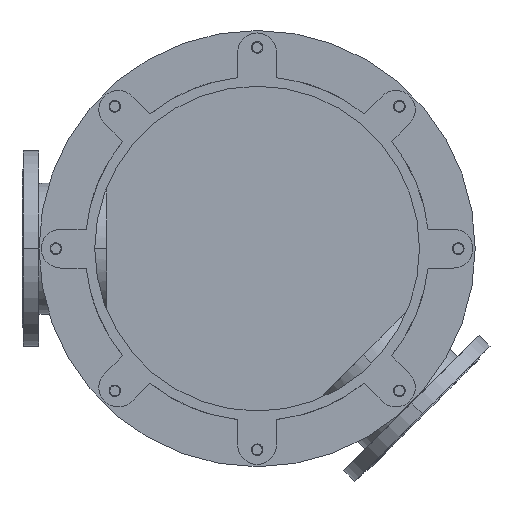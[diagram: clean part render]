
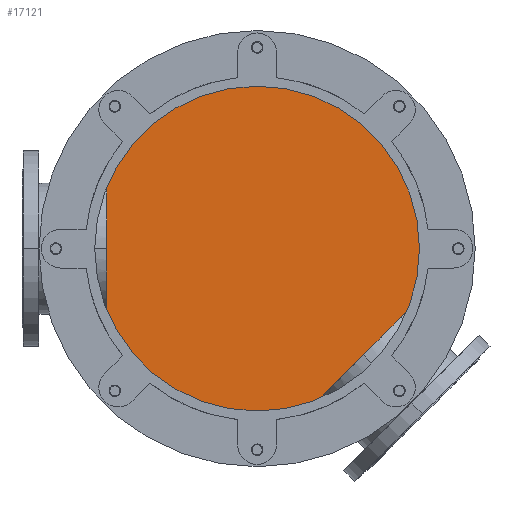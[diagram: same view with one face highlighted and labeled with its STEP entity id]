
A CAD part, front view. The second image highlights one B-rep face of the part: STEP entity #17121.
In plain terms, the highlighted planar face has unit normal (0, -1, 0).
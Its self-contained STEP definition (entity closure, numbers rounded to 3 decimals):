
#5053=CARTESIAN_POINT('',(0.,1204.,0.));
#5054=DIRECTION('',(0.,-1.,0.));
#5055=DIRECTION('',(0.,0.,1.));
#5056=AXIS2_PLACEMENT_3D('',#5053,#5054,#5055);
#5185=CARTESIAN_POINT('',(0.,1204.,0.));
#5186=DIRECTION('',(0.,-1.,0.));
#5187=DIRECTION('',(0.,0.,-1.));
#5188=AXIS2_PLACEMENT_3D('',#5185,#5186,#5187);
#9218=CARTESIAN_POINT('',(0.,1204.,350.));
#9219=CARTESIAN_POINT('',(0.,1204.,-350.));
#9220=VERTEX_POINT('',#9218);
#9221=VERTEX_POINT('',#9219);
#17111=CARTESIAN_POINT('',(0.,1204.,0.));
#17112=DIRECTION('',(0.,1.,0.));
#17113=DIRECTION('',(0.,0.,-1.));
#17114=AXIS2_PLACEMENT_3D('',#17111,#17112,#17113);
#17115=PLANE('',#17114);
#17116=ORIENTED_EDGE('',*,*,#17095,.F.);
#17118=ORIENTED_EDGE('',*,*,#17117,.F.);
#17119=EDGE_LOOP('',(#17116,#17118));
#17120=FACE_OUTER_BOUND('',#17119,.F.);
#17121=ADVANCED_FACE('',(#17120),#17115,.F.);
#5057=CIRCLE('',#5056,350.);
#5189=CIRCLE('',#5188,350.);
#17095=EDGE_CURVE('',#9220,#9221,#5057,.T.);
#17117=EDGE_CURVE('',#9221,#9220,#5189,.T.);
